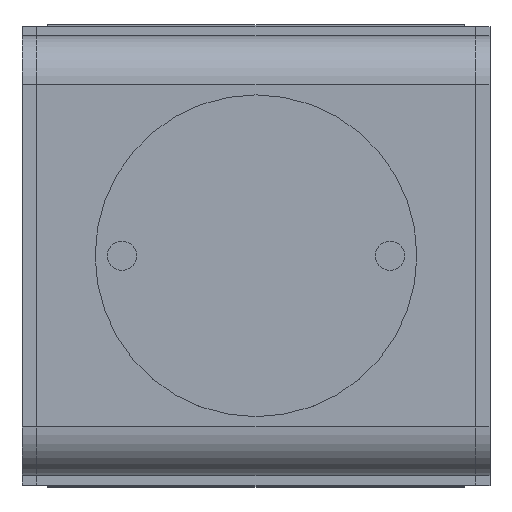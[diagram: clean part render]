
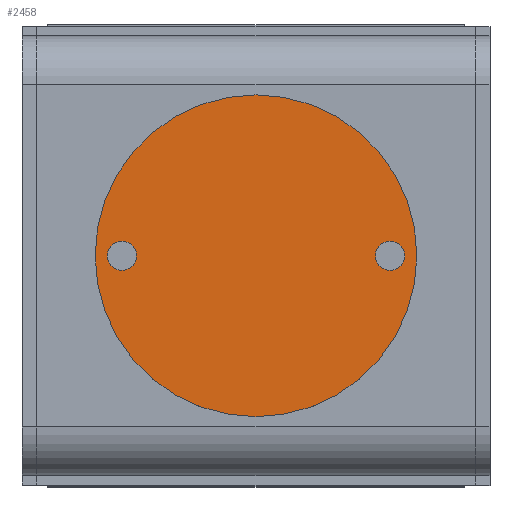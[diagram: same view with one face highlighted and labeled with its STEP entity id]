
A CAD part, top view. The second image highlights one B-rep face of the part: STEP entity #2458.
In plain terms, the highlighted planar face has unit normal (0, 0, 1).
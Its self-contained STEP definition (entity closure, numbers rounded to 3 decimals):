
#690=CARTESIAN_POINT('',(0.,0.,27.));
#691=DIRECTION('',(0.,0.,1.));
#692=DIRECTION('',(-1.,0.,0.));
#693=AXIS2_PLACEMENT_3D('',#690,#691,#692);
#699=CARTESIAN_POINT('',(0.,0.,27.));
#700=DIRECTION('',(0.,0.,-1.));
#701=DIRECTION('',(-1.,0.,0.));
#702=AXIS2_PLACEMENT_3D('',#699,#700,#701);
#708=CARTESIAN_POINT('',(13.75,0.,27.));
#709=DIRECTION('',(0.,0.,1.));
#710=DIRECTION('',(-1.,0.,0.));
#711=AXIS2_PLACEMENT_3D('',#708,#709,#710);
#713=CARTESIAN_POINT('',(13.75,0.,27.));
#714=DIRECTION('',(0.,0.,1.));
#715=DIRECTION('',(1.,0.,0.));
#716=AXIS2_PLACEMENT_3D('',#713,#714,#715);
#718=CARTESIAN_POINT('',(-13.75,0.,27.));
#719=DIRECTION('',(0.,0.,1.));
#720=DIRECTION('',(-1.,0.,0.));
#721=AXIS2_PLACEMENT_3D('',#718,#719,#720);
#723=CARTESIAN_POINT('',(-13.75,0.,27.));
#724=DIRECTION('',(0.,0.,1.));
#725=DIRECTION('',(1.,0.,0.));
#726=AXIS2_PLACEMENT_3D('',#723,#724,#725);
#1348=CARTESIAN_POINT('',(-16.5,0.,27.));
#1349=CARTESIAN_POINT('',(16.5,0.,27.));
#1350=VERTEX_POINT('',#1348);
#1351=VERTEX_POINT('',#1349);
#1364=CARTESIAN_POINT('',(12.25,0.,27.));
#1365=CARTESIAN_POINT('',(15.25,0.,27.));
#1366=VERTEX_POINT('',#1364);
#1367=VERTEX_POINT('',#1365);
#1368=CARTESIAN_POINT('',(-15.25,0.,27.));
#1369=CARTESIAN_POINT('',(-12.25,0.,27.));
#1370=VERTEX_POINT('',#1368);
#1371=VERTEX_POINT('',#1369);
#2437=CARTESIAN_POINT('',(0.,0.,27.));
#2438=DIRECTION('',(0.,0.,1.));
#2439=DIRECTION('',(1.,0.,0.));
#2440=AXIS2_PLACEMENT_3D('',#2437,#2438,#2439);
#2441=PLANE('',#2440);
#2442=ORIENTED_EDGE('',*,*,#2431,.T.);
#2443=ORIENTED_EDGE('',*,*,#2417,.F.);
#2444=EDGE_LOOP('',(#2442,#2443));
#2445=FACE_OUTER_BOUND('',#2444,.F.);
#2447=ORIENTED_EDGE('',*,*,#2446,.T.);
#2449=ORIENTED_EDGE('',*,*,#2448,.T.);
#2450=EDGE_LOOP('',(#2447,#2449));
#2451=FACE_BOUND('',#2450,.F.);
#2453=ORIENTED_EDGE('',*,*,#2452,.T.);
#2455=ORIENTED_EDGE('',*,*,#2454,.T.);
#2456=EDGE_LOOP('',(#2453,#2455));
#2457=FACE_BOUND('',#2456,.F.);
#2458=ADVANCED_FACE('',(#2445,#2451,#2457),#2441,.T.);
#694=CIRCLE('',#693,16.5);
#703=CIRCLE('',#702,16.5);
#712=CIRCLE('',#711,1.5);
#717=CIRCLE('',#716,1.5);
#722=CIRCLE('',#721,1.5);
#727=CIRCLE('',#726,1.5);
#2417=EDGE_CURVE('',#1350,#1351,#694,.T.);
#2431=EDGE_CURVE('',#1350,#1351,#703,.T.);
#2446=EDGE_CURVE('',#1366,#1367,#712,.T.);
#2448=EDGE_CURVE('',#1367,#1366,#717,.T.);
#2452=EDGE_CURVE('',#1370,#1371,#722,.T.);
#2454=EDGE_CURVE('',#1371,#1370,#727,.T.);
